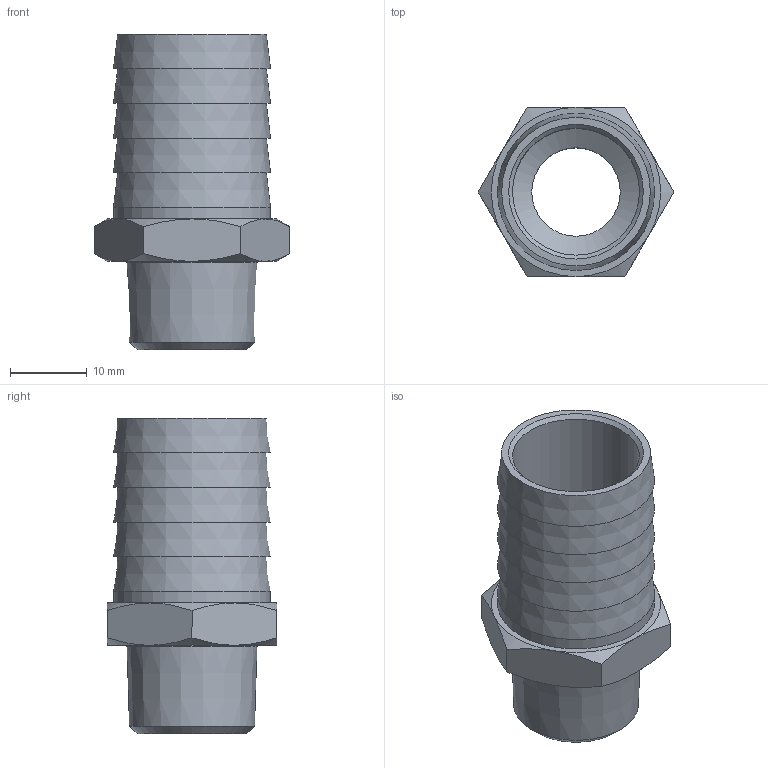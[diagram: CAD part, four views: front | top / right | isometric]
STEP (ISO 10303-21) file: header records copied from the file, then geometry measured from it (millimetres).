
FILE_DESCRIPTION(/* description */ (''),/* implementation_level */ '2;1');
FILE_NAME(/* name */ '30429_119_20_R38_22.11.16',/* time_stamp */ '2016-11-22T12:31:25+01:00',/* author */ (''),/* organization */ (''),/* preprocessor_version */ 'ST-DEVELOPER v16.5',/* originating_system */ 'HiCAD 2016 2102.0 Build 402',/* authorisation */ '');
FILE_SCHEMA (('AUTOMOTIVE_DESIGN { 1 0 10303 214 1 1 1 1 }'));
Length unit declared in the file: millimetre
Products named in the file (2): Root; ROTATIONSTEIL_0
Assembly tree (1 placements, depth 2):
  Root
    ROTATIONSTEIL_0
Bounding box: 25.4 x 22 x 41 mm (x, y, z)
Volume: 4931.4 mm3; surface area: 5020.5 mm2
Topology: 1 solids, 1 shells, 39 faces, 77 edges, 47 vertices
Faces by surface type: cone 21, plane 14, cylinder 4
Full cylindrical faces by diameter (mm): 11.5 x1, 16.5 x1, 16.893 x1, 20.4 x1
Entity records: 1598 total; most frequent: DIRECTION 200, CARTESIAN_POINT 148, PRESENTATION_STYLE_ASSIGNMENT 125, COLOUR_RGB 125, DRAUGHTING_PRE_DEFINED_CURVE_FONT 124, CURVE_STYLE 124, OVER_RIDING_STYLED_ITEM 124, ORIENTED_EDGE 124
